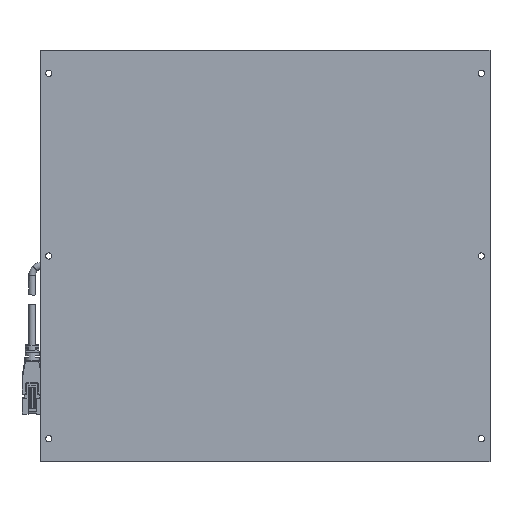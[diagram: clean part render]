
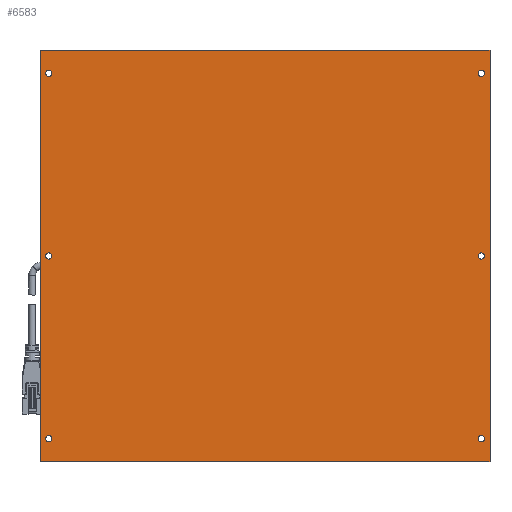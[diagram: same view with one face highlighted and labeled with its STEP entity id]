
A CAD part, front view. The second image highlights one B-rep face of the part: STEP entity #6583.
In plain terms, the highlighted planar face has unit normal (0, -1, 0).
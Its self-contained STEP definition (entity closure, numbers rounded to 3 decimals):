
#109 = ORIENTED_EDGE ( 'NONE', *, *, #9396, .F. ) ;
#265 = ORIENTED_EDGE ( 'NONE', *, *, #4080, .F. ) ;
#267 = CARTESIAN_POINT ( 'NONE',  ( 112.5, 0., -95. ) ) ;
#281 = DIRECTION ( 'NONE',  ( 0., 1., 0. ) ) ;
#296 = CARTESIAN_POINT ( 'NONE',  ( -114.1, 0., 0. ) ) ;
#441 = CIRCLE ( 'NONE', #10170, 1.6 ) ;
#644 = EDGE_CURVE ( 'NONE', #737, #3147, #8014, .T. ) ;
#737 = VERTEX_POINT ( 'NONE', #5773 ) ;
#872 = FACE_BOUND ( 'NONE', #3736, .T. ) ;
#932 = CARTESIAN_POINT ( 'NONE',  ( -112.5, 0., 0. ) ) ;
#1073 = DIRECTION ( 'NONE',  ( 1., 0., 0. ) ) ;
#1105 = EDGE_LOOP ( 'NONE', ( #11993, #2790 ) ) ;
#1171 = FACE_BOUND ( 'NONE', #12047, .T. ) ;
#1217 = DIRECTION ( 'NONE',  ( -1., 0., 0. ) ) ;
#1225 = VERTEX_POINT ( 'NONE', #4565 ) ;
#1313 = CARTESIAN_POINT ( 'NONE',  ( -114.1, 0., -95. ) ) ;
#1340 = ORIENTED_EDGE ( 'NONE', *, *, #10473, .F. ) ;
#1352 = VERTEX_POINT ( 'NONE', #7114 ) ;
#1405 = ORIENTED_EDGE ( 'NONE', *, *, #5290, .T. ) ;
#1551 = EDGE_CURVE ( 'NONE', #3748, #9502, #10234, .T. ) ;
#1665 = AXIS2_PLACEMENT_3D ( 'NONE', #932, #11249, #5579 ) ;
#1734 = EDGE_CURVE ( 'NONE', #1225, #4923, #441, .T. ) ;
#1862 = EDGE_CURVE ( 'NONE', #7564, #1352, #2338, .T. ) ;
#1911 = AXIS2_PLACEMENT_3D ( 'NONE', #4571, #11226, #4739 ) ;
#2065 = DIRECTION ( 'NONE',  ( 0., 0., -1. ) ) ;
#2086 = VERTEX_POINT ( 'NONE', #6146 ) ;
#2130 = CARTESIAN_POINT ( 'NONE',  ( 112.5, 0., -95. ) ) ;
#2338 = LINE ( 'NONE', #10174, #8260 ) ;
#2358 = DIRECTION ( 'NONE',  ( 0., -1., 0. ) ) ;
#2496 = CIRCLE ( 'NONE', #11517, 1.6 ) ;
#2540 = VERTEX_POINT ( 'NONE', #4758 ) ;
#2790 = ORIENTED_EDGE ( 'NONE', *, *, #3769, .T. ) ;
#2913 = CIRCLE ( 'NONE', #5414, 1.6 ) ;
#3058 = DIRECTION ( 'NONE',  ( 1., 0., 0. ) ) ;
#3103 = FACE_BOUND ( 'NONE', #10282, .T. ) ;
#3147 = VERTEX_POINT ( 'NONE', #3284 ) ;
#3279 = AXIS2_PLACEMENT_3D ( 'NONE', #4046, #4983, #8746 ) ;
#3284 = CARTESIAN_POINT ( 'NONE',  ( -117., 0., -107. ) ) ;
#3379 = AXIS2_PLACEMENT_3D ( 'NONE', #9473, #9314, #4747 ) ;
#3658 = CARTESIAN_POINT ( 'NONE',  ( -112.5, 0., -95. ) ) ;
#3677 = FACE_BOUND ( 'NONE', #1105, .T. ) ;
#3736 = EDGE_LOOP ( 'NONE', ( #1405, #11813 ) ) ;
#3748 = VERTEX_POINT ( 'NONE', #10665 ) ;
#3769 = EDGE_CURVE ( 'NONE', #11802, #2540, #5077, .T. ) ;
#3841 = VECTOR ( 'NONE', #2065, 1000. ) ;
#3933 = CARTESIAN_POINT ( 'NONE',  ( -117., 0., -107. ) ) ;
#4046 = CARTESIAN_POINT ( 'NONE',  ( 112.5, 0., 95. ) ) ;
#4080 = EDGE_CURVE ( 'NONE', #9678, #4377, #6260, .T. ) ;
#4132 = AXIS2_PLACEMENT_3D ( 'NONE', #2130, #6853, #3058 ) ;
#4279 = CARTESIAN_POINT ( 'NONE',  ( -114.1, 0., 95. ) ) ;
#4288 = CARTESIAN_POINT ( 'NONE',  ( -112.5, 0., 95. ) ) ;
#4304 = DIRECTION ( 'NONE',  ( -1., 0., 0. ) ) ;
#4331 = DIRECTION ( 'NONE',  ( -1., 0., 0. ) ) ;
#4377 = VERTEX_POINT ( 'NONE', #296 ) ;
#4423 = EDGE_CURVE ( 'NONE', #3147, #7564, #5816, .T. ) ;
#4565 = CARTESIAN_POINT ( 'NONE',  ( 110.9, 0., 95. ) ) ;
#4568 = CIRCLE ( 'NONE', #3279, 1.6 ) ;
#4571 = CARTESIAN_POINT ( 'NONE',  ( 0., 0., 0. ) ) ;
#4596 = CARTESIAN_POINT ( 'NONE',  ( 114.1, 0., 0. ) ) ;
#4739 = DIRECTION ( 'NONE',  ( 1., 0., 0. ) ) ;
#4747 = DIRECTION ( 'NONE',  ( 1., 0., 0. ) ) ;
#4758 = CARTESIAN_POINT ( 'NONE',  ( 114.1, 0., -95. ) ) ;
#4851 = FACE_BOUND ( 'NONE', #10244, .T. ) ;
#4923 = VERTEX_POINT ( 'NONE', #5918 ) ;
#4967 = ORIENTED_EDGE ( 'NONE', *, *, #4423, .F. ) ;
#4979 = EDGE_CURVE ( 'NONE', #2086, #10284, #9117, .T. ) ;
#4983 = DIRECTION ( 'NONE',  ( 0., 1., 0. ) ) ;
#5077 = CIRCLE ( 'NONE', #5262, 1.6 ) ;
#5115 = ORIENTED_EDGE ( 'NONE', *, *, #1734, .T. ) ;
#5238 = DIRECTION ( 'NONE',  ( 1., 0., 0. ) ) ;
#5262 = AXIS2_PLACEMENT_3D ( 'NONE', #267, #10041, #4331 ) ;
#5284 = VERTEX_POINT ( 'NONE', #10618 ) ;
#5290 = EDGE_CURVE ( 'NONE', #9502, #3748, #2913, .T. ) ;
#5306 = LINE ( 'NONE', #7733, #3841 ) ;
#5307 = ORIENTED_EDGE ( 'NONE', *, *, #644, .F. ) ;
#5338 = VECTOR ( 'NONE', #9877, 1000. ) ;
#5340 = ORIENTED_EDGE ( 'NONE', *, *, #8692, .F. ) ;
#5414 = AXIS2_PLACEMENT_3D ( 'NONE', #6878, #9702, #1073 ) ;
#5566 = DIRECTION ( 'NONE',  ( 0., -1., 0. ) ) ;
#5579 = DIRECTION ( 'NONE',  ( -1., 0., 0. ) ) ;
#5622 = DIRECTION ( 'NONE',  ( 0., -1., 0. ) ) ;
#5773 = CARTESIAN_POINT ( 'NONE',  ( 117., 0., -107. ) ) ;
#5816 = LINE ( 'NONE', #3933, #8334 ) ;
#5822 = CIRCLE ( 'NONE', #6596, 1.6 ) ;
#5893 = AXIS2_PLACEMENT_3D ( 'NONE', #4288, #2358, #5238 ) ;
#5918 = CARTESIAN_POINT ( 'NONE',  ( 114.1, 0., 95. ) ) ;
#5922 = CARTESIAN_POINT ( 'NONE',  ( 112.5, 0., 0. ) ) ;
#6030 = CARTESIAN_POINT ( 'NONE',  ( -117., 0., 107. ) ) ;
#6146 = CARTESIAN_POINT ( 'NONE',  ( -110.9, 0., 95. ) ) ;
#6260 = CIRCLE ( 'NONE', #3379, 1.6 ) ;
#6498 = ORIENTED_EDGE ( 'NONE', *, *, #1862, .F. ) ;
#6519 = PLANE ( 'NONE',  #1911 ) ;
#6583 = ADVANCED_FACE ( 'NONE', ( #8257, #11973, #4851, #3103, #3677, #872, #1171 ), #6519, .F. ) ;
#6596 = AXIS2_PLACEMENT_3D ( 'NONE', #6725, #11303, #8543 ) ;
#6659 = DIRECTION ( 'NONE',  ( 0., 0., 1. ) ) ;
#6725 = CARTESIAN_POINT ( 'NONE',  ( -112.5, 0., 95. ) ) ;
#6828 = CARTESIAN_POINT ( 'NONE',  ( 110.9, 0., -95. ) ) ;
#6853 = DIRECTION ( 'NONE',  ( 0., 1., 0. ) ) ;
#6878 = CARTESIAN_POINT ( 'NONE',  ( 112.5, 0., 0. ) ) ;
#6954 = EDGE_CURVE ( 'NONE', #2540, #11802, #7510, .T. ) ;
#7114 = CARTESIAN_POINT ( 'NONE',  ( 117., 0., 107. ) ) ;
#7510 = CIRCLE ( 'NONE', #4132, 1.6 ) ;
#7564 = VERTEX_POINT ( 'NONE', #6030 ) ;
#7650 = CIRCLE ( 'NONE', #1665, 1.6 ) ;
#7733 = CARTESIAN_POINT ( 'NONE',  ( 117., 0., 107. ) ) ;
#7931 = VERTEX_POINT ( 'NONE', #1313 ) ;
#8014 = LINE ( 'NONE', #8026, #5338 ) ;
#8026 = CARTESIAN_POINT ( 'NONE',  ( 117., 0., -107. ) ) ;
#8069 = CARTESIAN_POINT ( 'NONE',  ( -110.9, 0., 0. ) ) ;
#8118 = DIRECTION ( 'NONE',  ( 0., 1., 0. ) ) ;
#8237 = AXIS2_PLACEMENT_3D ( 'NONE', #5922, #281, #1217 ) ;
#8257 = FACE_OUTER_BOUND ( 'NONE', #9315, .T. ) ;
#8260 = VECTOR ( 'NONE', #11242, 1000. ) ;
#8334 = VECTOR ( 'NONE', #6659, 1000. ) ;
#8419 = ORIENTED_EDGE ( 'NONE', *, *, #9322, .F. ) ;
#8434 = ORIENTED_EDGE ( 'NONE', *, *, #11833, .T. ) ;
#8543 = DIRECTION ( 'NONE',  ( -1., 0., 0. ) ) ;
#8692 = EDGE_CURVE ( 'NONE', #7931, #5284, #10381, .T. ) ;
#8746 = DIRECTION ( 'NONE',  ( 1., 0., 0. ) ) ;
#8747 = ORIENTED_EDGE ( 'NONE', *, *, #4979, .F. ) ;
#9117 = CIRCLE ( 'NONE', #5893, 1.6 ) ;
#9314 = DIRECTION ( 'NONE',  ( 0., -1., 0. ) ) ;
#9315 = EDGE_LOOP ( 'NONE', ( #5307, #11290, #6498, #4967 ) ) ;
#9322 = EDGE_CURVE ( 'NONE', #5284, #7931, #2496, .T. ) ;
#9361 = CARTESIAN_POINT ( 'NONE',  ( -112.5, 0., -95. ) ) ;
#9396 = EDGE_CURVE ( 'NONE', #4377, #9678, #7650, .T. ) ;
#9473 = CARTESIAN_POINT ( 'NONE',  ( -112.5, 0., 0. ) ) ;
#9502 = VERTEX_POINT ( 'NONE', #4596 ) ;
#9678 = VERTEX_POINT ( 'NONE', #8069 ) ;
#9702 = DIRECTION ( 'NONE',  ( 0., 1., 0. ) ) ;
#9877 = DIRECTION ( 'NONE',  ( -1., 0., 0. ) ) ;
#10041 = DIRECTION ( 'NONE',  ( 0., 1., 0. ) ) ;
#10170 = AXIS2_PLACEMENT_3D ( 'NONE', #10824, #8118, #4304 ) ;
#10174 = CARTESIAN_POINT ( 'NONE',  ( -117., 0., 107. ) ) ;
#10234 = CIRCLE ( 'NONE', #8237, 1.6 ) ;
#10244 = EDGE_LOOP ( 'NONE', ( #109, #265 ) ) ;
#10282 = EDGE_LOOP ( 'NONE', ( #1340, #8747 ) ) ;
#10284 = VERTEX_POINT ( 'NONE', #4279 ) ;
#10381 = CIRCLE ( 'NONE', #12054, 1.6 ) ;
#10469 = DIRECTION ( 'NONE',  ( -1., 0., 0. ) ) ;
#10473 = EDGE_CURVE ( 'NONE', #10284, #2086, #5822, .T. ) ;
#10480 = EDGE_LOOP ( 'NONE', ( #5340, #8419 ) ) ;
#10618 = CARTESIAN_POINT ( 'NONE',  ( -110.9, 0., -95. ) ) ;
#10665 = CARTESIAN_POINT ( 'NONE',  ( 110.9, 0., 0. ) ) ;
#10824 = CARTESIAN_POINT ( 'NONE',  ( 112.5, 0., 95. ) ) ;
#11226 = DIRECTION ( 'NONE',  ( 0., 1., 0. ) ) ;
#11242 = DIRECTION ( 'NONE',  ( 1., 0., 0. ) ) ;
#11249 = DIRECTION ( 'NONE',  ( 0., -1., 0. ) ) ;
#11290 = ORIENTED_EDGE ( 'NONE', *, *, #11733, .F. ) ;
#11303 = DIRECTION ( 'NONE',  ( 0., -1., 0. ) ) ;
#11517 = AXIS2_PLACEMENT_3D ( 'NONE', #9361, #5566, #12223 ) ;
#11733 = EDGE_CURVE ( 'NONE', #1352, #737, #5306, .T. ) ;
#11802 = VERTEX_POINT ( 'NONE', #6828 ) ;
#11813 = ORIENTED_EDGE ( 'NONE', *, *, #1551, .T. ) ;
#11833 = EDGE_CURVE ( 'NONE', #4923, #1225, #4568, .T. ) ;
#11973 = FACE_BOUND ( 'NONE', #10480, .T. ) ;
#11993 = ORIENTED_EDGE ( 'NONE', *, *, #6954, .T. ) ;
#12047 = EDGE_LOOP ( 'NONE', ( #8434, #5115 ) ) ;
#12054 = AXIS2_PLACEMENT_3D ( 'NONE', #3658, #5622, #10469 ) ;
#12223 = DIRECTION ( 'NONE',  ( 1., 0., 0. ) ) ;
